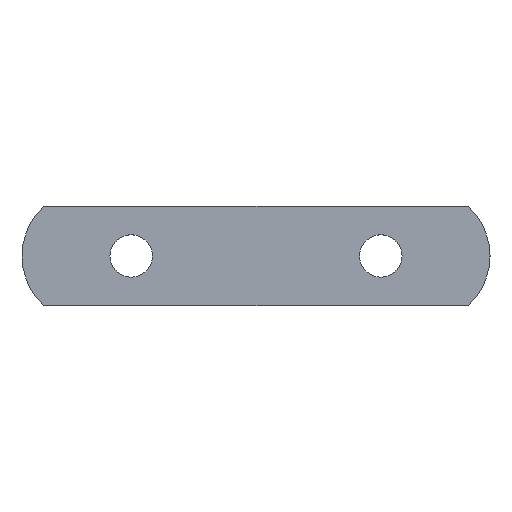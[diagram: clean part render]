
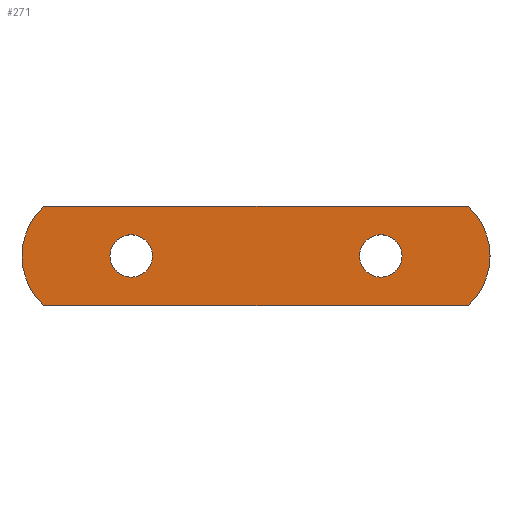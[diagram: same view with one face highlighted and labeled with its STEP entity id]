
A CAD part, top view. The second image highlights one B-rep face of the part: STEP entity #271.
In plain terms, the highlighted planar face has unit normal (0, 0, 1).
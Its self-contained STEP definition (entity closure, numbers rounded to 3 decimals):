
#2 = EDGE_LOOP ( 'NONE', ( #81, #234, #536, #358, #30 ) ) ;
#6 = VECTOR ( 'NONE', #590, 1000. ) ;
#17 = LINE ( 'NONE', #332, #77 ) ;
#30 = ORIENTED_EDGE ( 'NONE', *, *, #398, .T. ) ;
#35 = CARTESIAN_POINT ( 'NONE',  ( -26.607, 0., 3.6 ) ) ;
#36 = VERTEX_POINT ( 'NONE', #291 ) ;
#42 = CARTESIAN_POINT ( 'NONE',  ( 20., 0., 3.6 ) ) ;
#61 = DIRECTION ( 'NONE',  ( -1., 0., 0. ) ) ;
#63 = CARTESIAN_POINT ( 'NONE',  ( -34., -8., 3.6 ) ) ;
#77 = VECTOR ( 'NONE', #470, 1000. ) ;
#81 = ORIENTED_EDGE ( 'NONE', *, *, #429, .T. ) ;
#100 = DIRECTION ( 'NONE',  ( 0., 0., -1. ) ) ;
#111 = AXIS2_PLACEMENT_3D ( 'NONE', #338, #443, #401 ) ;
#117 = CARTESIAN_POINT ( 'NONE',  ( -23.4, 0., 3.6 ) ) ;
#122 = DIRECTION ( 'NONE',  ( -1., 0., 0. ) ) ;
#126 = CIRCLE ( 'NONE', #303, 3.4 ) ;
#136 = EDGE_LOOP ( 'NONE', ( #353, #342 ) ) ;
#141 = AXIS2_PLACEMENT_3D ( 'NONE', #519, #459, #122 ) ;
#150 = CARTESIAN_POINT ( 'NONE',  ( -37.5, 0., 3.6 ) ) ;
#157 = CARTESIAN_POINT ( 'NONE',  ( -26.607, 0., 3.6 ) ) ;
#168 = DIRECTION ( 'NONE',  ( 0., 0., -1. ) ) ;
#171 = PLANE ( 'NONE',  #141 ) ;
#183 = DIRECTION ( 'NONE',  ( -1., 0., 0. ) ) ;
#185 = CIRCLE ( 'NONE', #229, 10.893 ) ;
#190 = VERTEX_POINT ( 'NONE', #150 ) ;
#200 = VERTEX_POINT ( 'NONE', #558 ) ;
#225 = CARTESIAN_POINT ( 'NONE',  ( -34., -8., 3.6 ) ) ;
#226 = CARTESIAN_POINT ( 'NONE',  ( 26.607, 0., 3.6 ) ) ;
#229 = AXIS2_PLACEMENT_3D ( 'NONE', #35, #451, #302 ) ;
#234 = ORIENTED_EDGE ( 'NONE', *, *, #483, .T. ) ;
#236 = AXIS2_PLACEMENT_3D ( 'NONE', #42, #168, #422 ) ;
#242 = CARTESIAN_POINT ( 'NONE',  ( -20., 0., 3.6 ) ) ;
#247 = CIRCLE ( 'NONE', #111, 3.4 ) ;
#251 = DIRECTION ( 'NONE',  ( 1., 0., 0. ) ) ;
#255 = CIRCLE ( 'NONE', #236, 3.4 ) ;
#271 = ADVANCED_FACE ( 'NONE', ( #528, #514, #595 ), #171, .F. ) ;
#288 = CARTESIAN_POINT ( 'NONE',  ( -20., 0., 3.6 ) ) ;
#291 = CARTESIAN_POINT ( 'NONE',  ( 34., 8., 3.6 ) ) ;
#299 = VERTEX_POINT ( 'NONE', #117 ) ;
#302 = DIRECTION ( 'NONE',  ( 1., 0., 0. ) ) ;
#303 = AXIS2_PLACEMENT_3D ( 'NONE', #242, #100, #61 ) ;
#314 = AXIS2_PLACEMENT_3D ( 'NONE', #226, #471, #525 ) ;
#316 = VERTEX_POINT ( 'NONE', #225 ) ;
#320 = CIRCLE ( 'NONE', #314, 10.893 ) ;
#332 = CARTESIAN_POINT ( 'NONE',  ( -34., 8., 3.6 ) ) ;
#338 = CARTESIAN_POINT ( 'NONE',  ( 20., 0., 3.6 ) ) ;
#342 = ORIENTED_EDGE ( 'NONE', *, *, #433, .T. ) ;
#353 = ORIENTED_EDGE ( 'NONE', *, *, #574, .T. ) ;
#354 = CIRCLE ( 'NONE', #466, 10.893 ) ;
#358 = ORIENTED_EDGE ( 'NONE', *, *, #531, .T. ) ;
#364 = CARTESIAN_POINT ( 'NONE',  ( 34., -8., 3.6 ) ) ;
#368 = AXIS2_PLACEMENT_3D ( 'NONE', #288, #476, #183 ) ;
#396 = ORIENTED_EDGE ( 'NONE', *, *, #461, .T. ) ;
#398 = EDGE_CURVE ( 'NONE', #316, #469, #436, .T. ) ;
#401 = DIRECTION ( 'NONE',  ( -1., 0., 0. ) ) ;
#422 = DIRECTION ( 'NONE',  ( -1., 0., 0. ) ) ;
#429 = EDGE_CURVE ( 'NONE', #469, #36, #320, .T. ) ;
#433 = EDGE_CURVE ( 'NONE', #576, #517, #255, .T. ) ;
#436 = LINE ( 'NONE', #63, #6 ) ;
#443 = DIRECTION ( 'NONE',  ( 0., 0., -1. ) ) ;
#451 = DIRECTION ( 'NONE',  ( 0., 0., 1. ) ) ;
#454 = CARTESIAN_POINT ( 'NONE',  ( 23.4, 0., 3.6 ) ) ;
#459 = DIRECTION ( 'NONE',  ( 0., 0., -1. ) ) ;
#461 = EDGE_CURVE ( 'NONE', #299, #522, #462, .T. ) ;
#462 = CIRCLE ( 'NONE', #368, 3.4 ) ;
#466 = AXIS2_PLACEMENT_3D ( 'NONE', #157, #550, #251 ) ;
#468 = EDGE_CURVE ( 'NONE', #522, #299, #126, .T. ) ;
#469 = VERTEX_POINT ( 'NONE', #364 ) ;
#470 = DIRECTION ( 'NONE',  ( -1., 0., 0. ) ) ;
#471 = DIRECTION ( 'NONE',  ( 0., 0., 1. ) ) ;
#476 = DIRECTION ( 'NONE',  ( 0., 0., -1. ) ) ;
#483 = EDGE_CURVE ( 'NONE', #36, #200, #17, .T. ) ;
#501 = CARTESIAN_POINT ( 'NONE',  ( -16.6, 0., 3.6 ) ) ;
#514 = FACE_BOUND ( 'NONE', #526, .T. ) ;
#517 = VERTEX_POINT ( 'NONE', #557 ) ;
#519 = CARTESIAN_POINT ( 'NONE',  ( 26.607, 0., 3.6 ) ) ;
#522 = VERTEX_POINT ( 'NONE', #501 ) ;
#524 = ORIENTED_EDGE ( 'NONE', *, *, #468, .T. ) ;
#525 = DIRECTION ( 'NONE',  ( -1., 0., 0. ) ) ;
#526 = EDGE_LOOP ( 'NONE', ( #396, #524 ) ) ;
#528 = FACE_BOUND ( 'NONE', #136, .T. ) ;
#531 = EDGE_CURVE ( 'NONE', #190, #316, #354, .T. ) ;
#536 = ORIENTED_EDGE ( 'NONE', *, *, #594, .T. ) ;
#550 = DIRECTION ( 'NONE',  ( 0., 0., 1. ) ) ;
#557 = CARTESIAN_POINT ( 'NONE',  ( 16.6, 0., 3.6 ) ) ;
#558 = CARTESIAN_POINT ( 'NONE',  ( -34., 8., 3.6 ) ) ;
#574 = EDGE_CURVE ( 'NONE', #517, #576, #247, .T. ) ;
#576 = VERTEX_POINT ( 'NONE', #454 ) ;
#590 = DIRECTION ( 'NONE',  ( 1., 0., 0. ) ) ;
#594 = EDGE_CURVE ( 'NONE', #200, #190, #185, .T. ) ;
#595 = FACE_OUTER_BOUND ( 'NONE', #2, .T. ) ;
